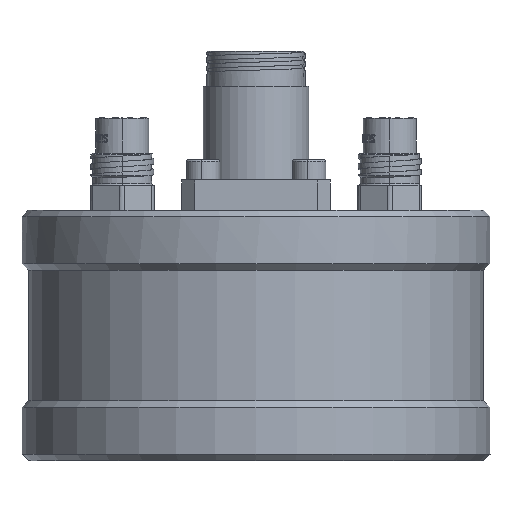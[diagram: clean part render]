
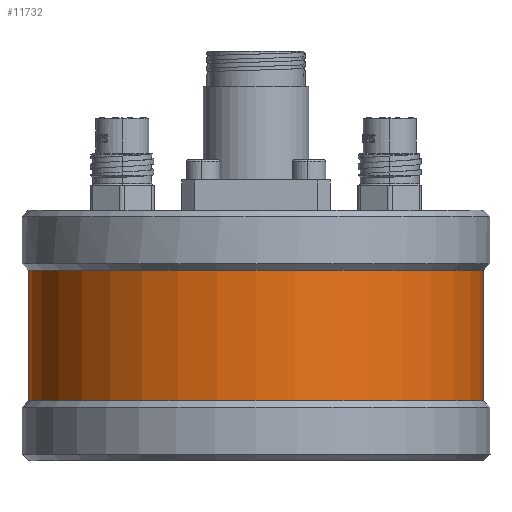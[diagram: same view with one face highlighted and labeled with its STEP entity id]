
A CAD part, front view. The second image highlights one B-rep face of the part: STEP entity #11732.
In plain terms, the highlighted cylindrical face has radius 68 mm (diameter 136 mm), a partial arc.
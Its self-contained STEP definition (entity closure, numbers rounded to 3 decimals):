
#588 = VERTEX_POINT ( 'NONE', #23366 ) ;
#1576 = AXIS2_PLACEMENT_3D ( 'NONE', #47011, #8617, #59835 ) ;
#2718 = CARTESIAN_POINT ( 'NONE',  ( -138.012, 82.173, 115.94 ) ) ;
#3017 = EDGE_CURVE ( 'NONE', #21132, #588, #51501, .T. ) ;
#4061 = DIRECTION ( 'NONE',  ( 0., 0., -1. ) ) ;
#6373 = FACE_OUTER_BOUND ( 'NONE', #12693, .T. ) ;
#6924 = DIRECTION ( 'NONE',  ( 0., 0., -1. ) ) ;
#8617 = DIRECTION ( 'NONE',  ( 0., 0., -1. ) ) ;
#9002 = AXIS2_PLACEMENT_3D ( 'NONE', #33546, #79633, #61879 ) ;
#9576 = CARTESIAN_POINT ( 'NONE',  ( -2.012, 82.173, 115.94 ) ) ;
#11732 = ADVANCED_FACE ( 'NONE', ( #6373 ), #44256, .T. ) ;
#12693 = EDGE_LOOP ( 'NONE', ( #47569, #36891, #47117, #24986 ) ) ;
#17302 = VERTEX_POINT ( 'NONE', #2718 ) ;
#21132 = VERTEX_POINT ( 'NONE', #9576 ) ;
#23366 = CARTESIAN_POINT ( 'NONE',  ( -2.012, 82.173, 76.94 ) ) ;
#24986 = ORIENTED_EDGE ( 'NONE', *, *, #3017, .F. ) ;
#27389 = EDGE_CURVE ( 'NONE', #21132, #17302, #30474, .T. ) ;
#30474 = CIRCLE ( 'NONE', #51039, 68. ) ;
#33546 = CARTESIAN_POINT ( 'NONE',  ( -70.012, 82.173, 58.94 ) ) ;
#36891 = ORIENTED_EDGE ( 'NONE', *, *, #54855, .T. ) ;
#41672 = VECTOR ( 'NONE', #65840, 1000. ) ;
#43333 = CARTESIAN_POINT ( 'NONE',  ( -138.012, 82.173, 76.94 ) ) ;
#44188 = VERTEX_POINT ( 'NONE', #43333 ) ;
#44256 = CYLINDRICAL_SURFACE ( 'NONE', #9002, 68. ) ;
#45883 = DIRECTION ( 'NONE',  ( 1., 0., 0. ) ) ;
#46235 = EDGE_CURVE ( 'NONE', #588, #44188, #51471, .T. ) ;
#47011 = CARTESIAN_POINT ( 'NONE',  ( -70.012, 82.173, 76.94 ) ) ;
#47117 = ORIENTED_EDGE ( 'NONE', *, *, #46235, .F. ) ;
#47569 = ORIENTED_EDGE ( 'NONE', *, *, #27389, .T. ) ;
#50441 = VECTOR ( 'NONE', #4061, 1000. ) ;
#51039 = AXIS2_PLACEMENT_3D ( 'NONE', #70789, #6924, #45883 ) ;
#51471 = CIRCLE ( 'NONE', #1576, 68. ) ;
#51501 = LINE ( 'NONE', #56980, #50441 ) ;
#54855 = EDGE_CURVE ( 'NONE', #17302, #44188, #78512, .T. ) ;
#56980 = CARTESIAN_POINT ( 'NONE',  ( -2.012, 82.173, 58.94 ) ) ;
#59265 = CARTESIAN_POINT ( 'NONE',  ( -138.012, 82.173, 58.94 ) ) ;
#59835 = DIRECTION ( 'NONE',  ( 1., 0., 0. ) ) ;
#61879 = DIRECTION ( 'NONE',  ( 1., 0., 0. ) ) ;
#65840 = DIRECTION ( 'NONE',  ( 0., 0., -1. ) ) ;
#70789 = CARTESIAN_POINT ( 'NONE',  ( -70.012, 82.173, 115.94 ) ) ;
#78512 = LINE ( 'NONE', #59265, #41672 ) ;
#79633 = DIRECTION ( 'NONE',  ( 0., 0., -1. ) ) ;
